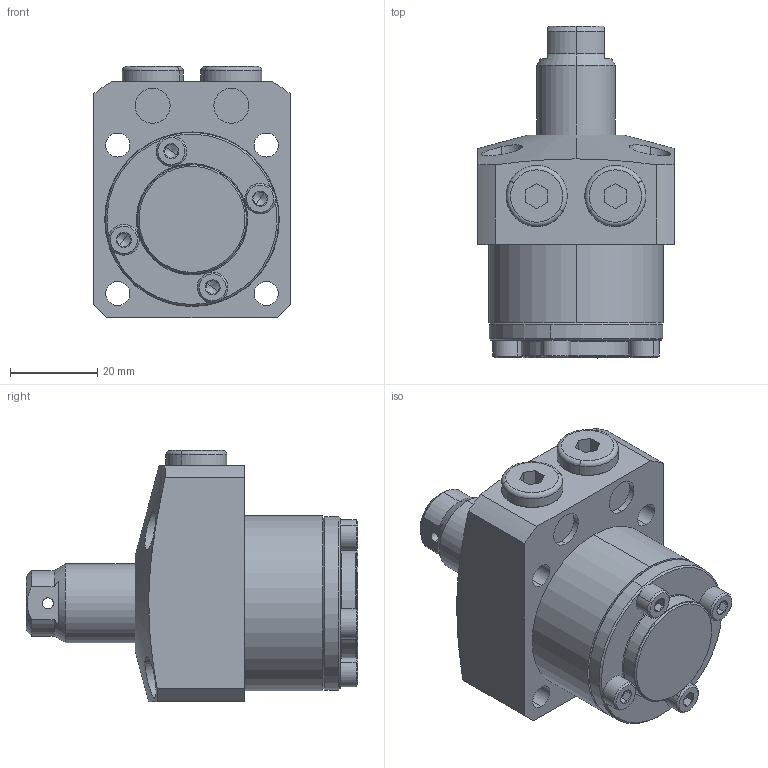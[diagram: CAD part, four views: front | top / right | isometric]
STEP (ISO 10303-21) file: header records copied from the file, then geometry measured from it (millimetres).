
FILE_DESCRIPTION (( 'STEP AP203' ), '1' );
FILE_NAME ('680400-CB-015.step', '2016-11-02T03:17:57', ( 'wxp' ), ( '' ), 'SwSTEP 2.0', 'SolidWorks 2011', '' );
FILE_SCHEMA (( 'CONFIG_CONTROL_DESIGN' ));
Length unit declared in the file: millimetre
Products named in the file (6): 680400-CB-015; 葩璃 68036-15-5^680400-CB-015; 葩璃 680400-15-4^680400-CB-015; 葩璃 680400-15-3^680400-CB-015; 葩璃 680400-CB-15-2^680400-CB-015; 葩璃 680400-15-1^680400-CB-015
Assembly tree (9 placements, depth 2):
  680400-CB-015
    葩璃 680400-15-4^680400-CB-015  x4
    葩璃 680400-CB-15-2^680400-CB-015
    葩璃 680400-15-3^680400-CB-015
    葩璃 680400-15-1^680400-CB-015
    葩璃 68036-15-5^680400-CB-015  x2
Bounding box: 45 x 76 x 57.5 mm (x, y, z)
Volume: 82750.6 mm3; surface area: 22578.3 mm2
Topology: 9 solids, 9 shells, 283 faces, 567 edges, 320 vertices
Faces by surface type: plane 110, cylinder 85, cone 72, torus 16
Entity records: 5669 total; most frequent: CARTESIAN_POINT 1252, DIRECTION 847, ORIENTED_EDGE 698, AXIS2_PLACEMENT_3D 354, EDGE_CURVE 349, VERTEX_POINT 213, EDGE_LOOP 202, CIRCLE 178
